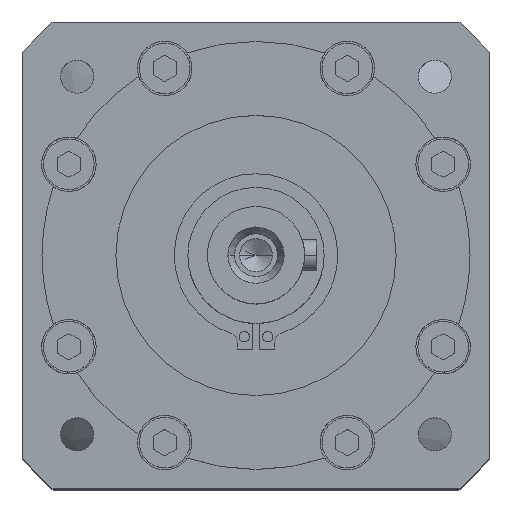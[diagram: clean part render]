
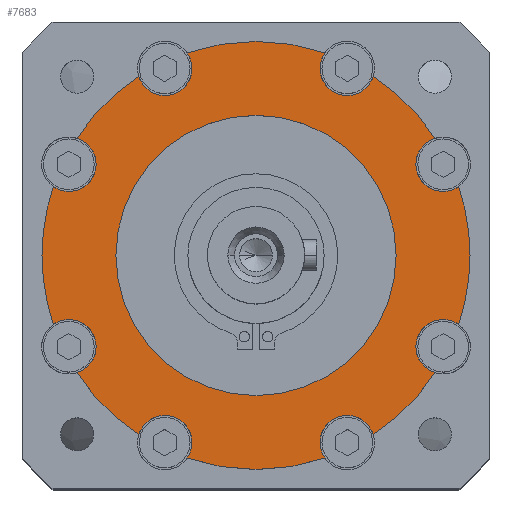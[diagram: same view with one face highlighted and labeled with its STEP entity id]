
A CAD part, top view. The second image highlights one B-rep face of the part: STEP entity #7683.
In plain terms, the highlighted planar face has unit normal (0, 0, 1).
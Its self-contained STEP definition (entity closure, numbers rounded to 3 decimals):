
#2997 = VERTEX_POINT('',#2998);
#2998 = CARTESIAN_POINT('',(-55.,0.,0.));
#3006 = EDGE_CURVE('',#2997,#3007,#3009,.T.);
#3007 = VERTEX_POINT('',#3008);
#3008 = CARTESIAN_POINT('',(-52.074,17.7,0.));
#3009 = CIRCLE('',#3010,55.);
#3010 = AXIS2_PLACEMENT_3D('',#3011,#3012,#3013);
#3011 = CARTESIAN_POINT('',(0.,0.,0.));
#3012 = DIRECTION('',(0.,0.,-1.));
#3013 = DIRECTION('',(1.,0.,0.));
#3422 = VERTEX_POINT('',#3423);
#3423 = CARTESIAN_POINT('',(-46.008,-30.137,0.));
#3458 = VERTEX_POINT('',#3459);
#3459 = CARTESIAN_POINT('',(-41.085,-23.453,0.));
#3465 = EDGE_CURVE('',#3458,#3422,#3466,.T.);
#3466 = CIRCLE('',#3467,7.);
#3467 = AXIS2_PLACEMENT_3D('',#3468,#3469,#3470);
#3468 = CARTESIAN_POINT('',(-48.085,-23.453,0.));
#3469 = DIRECTION('',(0.,0.,-1.));
#3470 = DIRECTION('',(-1.,0.,0.));
#3508 = VERTEX_POINT('',#3509);
#3509 = CARTESIAN_POINT('',(-41.085,23.453,0.));
#3515 = EDGE_CURVE('',#3508,#3007,#3516,.T.);
#3516 = CIRCLE('',#3517,7.);
#3517 = AXIS2_PLACEMENT_3D('',#3518,#3519,#3520);
#3518 = CARTESIAN_POINT('',(-48.085,23.453,0.));
#3519 = DIRECTION('',(0.,0.,-1.));
#3520 = DIRECTION('',(-1.,0.,0.));
#3531 = VERTEX_POINT('',#3532);
#3532 = CARTESIAN_POINT('',(-30.137,46.008,0.));
#3567 = VERTEX_POINT('',#3568);
#3568 = CARTESIAN_POINT('',(-16.453,48.085,0.));
#3574 = EDGE_CURVE('',#3567,#3531,#3575,.T.);
#3575 = CIRCLE('',#3576,7.);
#3576 = AXIS2_PLACEMENT_3D('',#3577,#3578,#3579);
#3577 = CARTESIAN_POINT('',(-23.453,48.085,0.));
#3578 = DIRECTION('',(0.,0.,-1.));
#3579 = DIRECTION('',(-1.,0.,0.));
#3592 = VERTEX_POINT('',#3593);
#3593 = CARTESIAN_POINT('',(30.137,46.008,0.));
#3599 = EDGE_CURVE('',#3592,#3600,#3602,.T.);
#3600 = VERTEX_POINT('',#3601);
#3601 = CARTESIAN_POINT('',(16.453,48.085,0.));
#3602 = CIRCLE('',#3603,7.);
#3603 = AXIS2_PLACEMENT_3D('',#3604,#3605,#3606);
#3604 = CARTESIAN_POINT('',(23.453,48.085,0.));
#3605 = DIRECTION('',(0.,0.,-1.));
#3606 = DIRECTION('',(-1.,0.,0.));
#3651 = VERTEX_POINT('',#3652);
#3652 = CARTESIAN_POINT('',(52.074,17.7,0.));
#3658 = EDGE_CURVE('',#3651,#3659,#3661,.T.);
#3659 = VERTEX_POINT('',#3660);
#3660 = CARTESIAN_POINT('',(41.085,23.453,0.));
#3661 = CIRCLE('',#3662,7.);
#3662 = AXIS2_PLACEMENT_3D('',#3663,#3664,#3665);
#3663 = CARTESIAN_POINT('',(48.085,23.453,0.));
#3664 = DIRECTION('',(0.,0.,-1.));
#3665 = DIRECTION('',(-1.,0.,0.));
#3719 = VERTEX_POINT('',#3720);
#3720 = CARTESIAN_POINT('',(55.,0.,0.));
#3726 = EDGE_CURVE('',#3719,#3727,#3729,.T.);
#3727 = VERTEX_POINT('',#3728);
#3728 = CARTESIAN_POINT('',(52.074,-17.7,0.));
#3729 = CIRCLE('',#3730,55.);
#3730 = AXIS2_PLACEMENT_3D('',#3731,#3732,#3733);
#3731 = CARTESIAN_POINT('',(0.,0.,0.));
#3732 = DIRECTION('',(0.,0.,-1.));
#3733 = DIRECTION('',(1.,0.,0.));
#3752 = VERTEX_POINT('',#3753);
#3753 = CARTESIAN_POINT('',(46.008,-30.137,0.));
#3759 = EDGE_CURVE('',#3752,#3760,#3762,.T.);
#3760 = VERTEX_POINT('',#3761);
#3761 = CARTESIAN_POINT('',(41.085,-23.453,0.));
#3762 = CIRCLE('',#3763,7.);
#3763 = AXIS2_PLACEMENT_3D('',#3764,#3765,#3766);
#3764 = CARTESIAN_POINT('',(48.085,-23.453,0.));
#3765 = DIRECTION('',(0.,0.,-1.));
#3766 = DIRECTION('',(-1.,0.,0.));
#3811 = VERTEX_POINT('',#3812);
#3812 = CARTESIAN_POINT('',(17.7,-52.074,0.));
#3818 = EDGE_CURVE('',#3811,#3819,#3821,.T.);
#3819 = VERTEX_POINT('',#3820);
#3820 = CARTESIAN_POINT('',(16.453,-48.085,0.));
#3821 = CIRCLE('',#3822,7.);
#3822 = AXIS2_PLACEMENT_3D('',#3823,#3824,#3825);
#3823 = CARTESIAN_POINT('',(23.453,-48.085,0.));
#3824 = DIRECTION('',(0.,0.,-1.));
#3825 = DIRECTION('',(-1.,0.,0.));
#3868 = VERTEX_POINT('',#3869);
#3869 = CARTESIAN_POINT('',(-17.7,-52.074,0.));
#3904 = VERTEX_POINT('',#3905);
#3905 = CARTESIAN_POINT('',(-16.453,-48.085,0.));
#3911 = EDGE_CURVE('',#3904,#3868,#3912,.T.);
#3912 = CIRCLE('',#3913,7.);
#3913 = AXIS2_PLACEMENT_3D('',#3914,#3915,#3916);
#3914 = CARTESIAN_POINT('',(-23.453,-48.085,0.));
#3915 = DIRECTION('',(0.,0.,-1.));
#3916 = DIRECTION('',(-1.,0.,0.));
#3929 = VERTEX_POINT('',#3930);
#3930 = CARTESIAN_POINT('',(36.,0.,0.));
#3936 = EDGE_CURVE('',#3937,#3929,#3939,.T.);
#3937 = VERTEX_POINT('',#3938);
#3938 = CARTESIAN_POINT('',(-36.,0.,0.));
#3939 = CIRCLE('',#3940,36.);
#3940 = AXIS2_PLACEMENT_3D('',#3941,#3942,#3943);
#3941 = CARTESIAN_POINT('',(0.,0.,0.));
#3942 = DIRECTION('',(0.,-0.,1.));
#3943 = DIRECTION('',(1.,0.,0.));
#7509 = EDGE_CURVE('',#3929,#3937,#7510,.T.);
#7510 = CIRCLE('',#7511,36.);
#7511 = AXIS2_PLACEMENT_3D('',#7512,#7513,#7514);
#7512 = CARTESIAN_POINT('',(0.,0.,0.));
#7513 = DIRECTION('',(0.,-0.,1.));
#7514 = DIRECTION('',(1.,0.,0.));
#7683 = ADVANCED_FACE('',(#7684,#7822),#7826,.F.);
#7684 = FACE_BOUND('',#7685,.T.);
#7685 = EDGE_LOOP('',(#7686,#7695,#7702,#7703,#7710,#7711,#7720,#7727,
    #7728,#7735,#7736,#7743,#7744,#7753,#7760,#7761,#7770,#7779,#7786,
    #7787,#7796,#7803,#7804,#7805,#7814,#7821));
#7686 = ORIENTED_EDGE('',*,*,#7687,.F.);
#7687 = EDGE_CURVE('',#7688,#3422,#7690,.T.);
#7688 = VERTEX_POINT('',#7689);
#7689 = CARTESIAN_POINT('',(-30.137,-46.008,0.));
#7690 = CIRCLE('',#7691,55.);
#7691 = AXIS2_PLACEMENT_3D('',#7692,#7693,#7694);
#7692 = CARTESIAN_POINT('',(0.,0.,0.));
#7693 = DIRECTION('',(0.,0.,-1.));
#7694 = DIRECTION('',(1.,0.,0.));
#7695 = ORIENTED_EDGE('',*,*,#7696,.T.);
#7696 = EDGE_CURVE('',#7688,#3904,#7697,.T.);
#7697 = CIRCLE('',#7698,7.);
#7698 = AXIS2_PLACEMENT_3D('',#7699,#7700,#7701);
#7699 = CARTESIAN_POINT('',(-23.453,-48.085,0.));
#7700 = DIRECTION('',(0.,0.,-1.));
#7701 = DIRECTION('',(-1.,0.,0.));
#7702 = ORIENTED_EDGE('',*,*,#3911,.T.);
#7703 = ORIENTED_EDGE('',*,*,#7704,.F.);
#7704 = EDGE_CURVE('',#3811,#3868,#7705,.T.);
#7705 = CIRCLE('',#7706,55.);
#7706 = AXIS2_PLACEMENT_3D('',#7707,#7708,#7709);
#7707 = CARTESIAN_POINT('',(0.,0.,0.));
#7708 = DIRECTION('',(0.,0.,-1.));
#7709 = DIRECTION('',(1.,0.,0.));
#7710 = ORIENTED_EDGE('',*,*,#3818,.T.);
#7711 = ORIENTED_EDGE('',*,*,#7712,.T.);
#7712 = EDGE_CURVE('',#3819,#7713,#7715,.T.);
#7713 = VERTEX_POINT('',#7714);
#7714 = CARTESIAN_POINT('',(30.137,-46.008,0.));
#7715 = CIRCLE('',#7716,7.);
#7716 = AXIS2_PLACEMENT_3D('',#7717,#7718,#7719);
#7717 = CARTESIAN_POINT('',(23.453,-48.085,0.));
#7718 = DIRECTION('',(0.,0.,-1.));
#7719 = DIRECTION('',(-1.,0.,0.));
#7720 = ORIENTED_EDGE('',*,*,#7721,.F.);
#7721 = EDGE_CURVE('',#3752,#7713,#7722,.T.);
#7722 = CIRCLE('',#7723,55.);
#7723 = AXIS2_PLACEMENT_3D('',#7724,#7725,#7726);
#7724 = CARTESIAN_POINT('',(0.,0.,0.));
#7725 = DIRECTION('',(0.,0.,-1.));
#7726 = DIRECTION('',(1.,0.,0.));
#7727 = ORIENTED_EDGE('',*,*,#3759,.T.);
#7728 = ORIENTED_EDGE('',*,*,#7729,.T.);
#7729 = EDGE_CURVE('',#3760,#3727,#7730,.T.);
#7730 = CIRCLE('',#7731,7.);
#7731 = AXIS2_PLACEMENT_3D('',#7732,#7733,#7734);
#7732 = CARTESIAN_POINT('',(48.085,-23.453,0.));
#7733 = DIRECTION('',(0.,0.,-1.));
#7734 = DIRECTION('',(-1.,0.,0.));
#7735 = ORIENTED_EDGE('',*,*,#3726,.F.);
#7736 = ORIENTED_EDGE('',*,*,#7737,.F.);
#7737 = EDGE_CURVE('',#3651,#3719,#7738,.T.);
#7738 = CIRCLE('',#7739,55.);
#7739 = AXIS2_PLACEMENT_3D('',#7740,#7741,#7742);
#7740 = CARTESIAN_POINT('',(0.,0.,0.));
#7741 = DIRECTION('',(0.,0.,-1.));
#7742 = DIRECTION('',(1.,0.,0.));
#7743 = ORIENTED_EDGE('',*,*,#3658,.T.);
#7744 = ORIENTED_EDGE('',*,*,#7745,.T.);
#7745 = EDGE_CURVE('',#3659,#7746,#7748,.T.);
#7746 = VERTEX_POINT('',#7747);
#7747 = CARTESIAN_POINT('',(46.008,30.137,0.));
#7748 = CIRCLE('',#7749,7.);
#7749 = AXIS2_PLACEMENT_3D('',#7750,#7751,#7752);
#7750 = CARTESIAN_POINT('',(48.085,23.453,0.));
#7751 = DIRECTION('',(0.,0.,-1.));
#7752 = DIRECTION('',(-1.,0.,0.));
#7753 = ORIENTED_EDGE('',*,*,#7754,.F.);
#7754 = EDGE_CURVE('',#3592,#7746,#7755,.T.);
#7755 = CIRCLE('',#7756,55.);
#7756 = AXIS2_PLACEMENT_3D('',#7757,#7758,#7759);
#7757 = CARTESIAN_POINT('',(0.,0.,0.));
#7758 = DIRECTION('',(0.,0.,-1.));
#7759 = DIRECTION('',(1.,0.,0.));
#7760 = ORIENTED_EDGE('',*,*,#3599,.T.);
#7761 = ORIENTED_EDGE('',*,*,#7762,.T.);
#7762 = EDGE_CURVE('',#3600,#7763,#7765,.T.);
#7763 = VERTEX_POINT('',#7764);
#7764 = CARTESIAN_POINT('',(17.7,52.074,0.));
#7765 = CIRCLE('',#7766,7.);
#7766 = AXIS2_PLACEMENT_3D('',#7767,#7768,#7769);
#7767 = CARTESIAN_POINT('',(23.453,48.085,0.));
#7768 = DIRECTION('',(0.,0.,-1.));
#7769 = DIRECTION('',(-1.,0.,0.));
#7770 = ORIENTED_EDGE('',*,*,#7771,.F.);
#7771 = EDGE_CURVE('',#7772,#7763,#7774,.T.);
#7772 = VERTEX_POINT('',#7773);
#7773 = CARTESIAN_POINT('',(-17.7,52.074,0.));
#7774 = CIRCLE('',#7775,55.);
#7775 = AXIS2_PLACEMENT_3D('',#7776,#7777,#7778);
#7776 = CARTESIAN_POINT('',(0.,0.,0.));
#7777 = DIRECTION('',(0.,0.,-1.));
#7778 = DIRECTION('',(1.,0.,0.));
#7779 = ORIENTED_EDGE('',*,*,#7780,.T.);
#7780 = EDGE_CURVE('',#7772,#3567,#7781,.T.);
#7781 = CIRCLE('',#7782,7.);
#7782 = AXIS2_PLACEMENT_3D('',#7783,#7784,#7785);
#7783 = CARTESIAN_POINT('',(-23.453,48.085,0.));
#7784 = DIRECTION('',(0.,0.,-1.));
#7785 = DIRECTION('',(-1.,0.,0.));
#7786 = ORIENTED_EDGE('',*,*,#3574,.T.);
#7787 = ORIENTED_EDGE('',*,*,#7788,.F.);
#7788 = EDGE_CURVE('',#7789,#3531,#7791,.T.);
#7789 = VERTEX_POINT('',#7790);
#7790 = CARTESIAN_POINT('',(-46.008,30.137,0.));
#7791 = CIRCLE('',#7792,55.);
#7792 = AXIS2_PLACEMENT_3D('',#7793,#7794,#7795);
#7793 = CARTESIAN_POINT('',(0.,0.,0.));
#7794 = DIRECTION('',(0.,0.,-1.));
#7795 = DIRECTION('',(1.,0.,0.));
#7796 = ORIENTED_EDGE('',*,*,#7797,.T.);
#7797 = EDGE_CURVE('',#7789,#3508,#7798,.T.);
#7798 = CIRCLE('',#7799,7.);
#7799 = AXIS2_PLACEMENT_3D('',#7800,#7801,#7802);
#7800 = CARTESIAN_POINT('',(-48.085,23.453,0.));
#7801 = DIRECTION('',(0.,0.,-1.));
#7802 = DIRECTION('',(-1.,0.,0.));
#7803 = ORIENTED_EDGE('',*,*,#3515,.T.);
#7804 = ORIENTED_EDGE('',*,*,#3006,.F.);
#7805 = ORIENTED_EDGE('',*,*,#7806,.F.);
#7806 = EDGE_CURVE('',#7807,#2997,#7809,.T.);
#7807 = VERTEX_POINT('',#7808);
#7808 = CARTESIAN_POINT('',(-52.074,-17.7,0.));
#7809 = CIRCLE('',#7810,55.);
#7810 = AXIS2_PLACEMENT_3D('',#7811,#7812,#7813);
#7811 = CARTESIAN_POINT('',(0.,0.,0.));
#7812 = DIRECTION('',(0.,0.,-1.));
#7813 = DIRECTION('',(1.,0.,0.));
#7814 = ORIENTED_EDGE('',*,*,#7815,.T.);
#7815 = EDGE_CURVE('',#7807,#3458,#7816,.T.);
#7816 = CIRCLE('',#7817,7.);
#7817 = AXIS2_PLACEMENT_3D('',#7818,#7819,#7820);
#7818 = CARTESIAN_POINT('',(-48.085,-23.453,0.));
#7819 = DIRECTION('',(0.,0.,-1.));
#7820 = DIRECTION('',(-1.,0.,0.));
#7821 = ORIENTED_EDGE('',*,*,#3465,.T.);
#7822 = FACE_BOUND('',#7823,.T.);
#7823 = EDGE_LOOP('',(#7824,#7825));
#7824 = ORIENTED_EDGE('',*,*,#7509,.F.);
#7825 = ORIENTED_EDGE('',*,*,#3936,.F.);
#7826 = PLANE('',#7827);
#7827 = AXIS2_PLACEMENT_3D('',#7828,#7829,#7830);
#7828 = CARTESIAN_POINT('',(0.,36.,0.));
#7829 = DIRECTION('',(0.,0.,-1.));
#7830 = DIRECTION('',(0.,-1.,0.));
